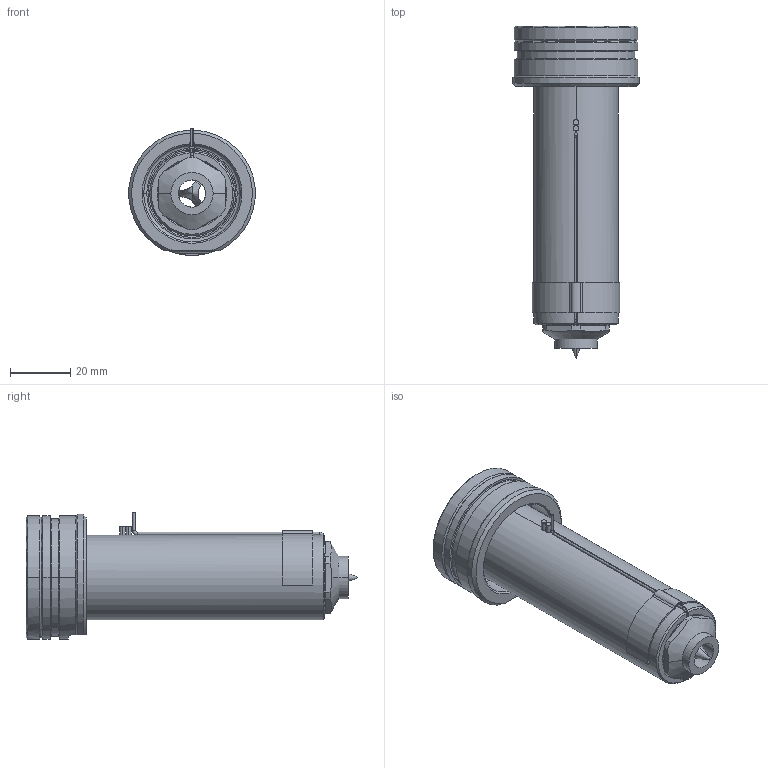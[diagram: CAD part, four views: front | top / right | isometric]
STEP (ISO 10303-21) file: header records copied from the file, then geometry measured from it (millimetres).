
FILE_DESCRIPTION((''),'2;1');
FILE_NAME('EO10_PG-BL_WR_090_SW','2024-02-19T11:10:04',('sundharh'),(''),'CREO PARAMETRIC BY PTC INC, 2023154','CREO PARAMETRIC BY PTC INC, 2023154','');
FILE_SCHEMA(('CONFIG_CONTROL_DESIGN'));
Length unit declared in the file: millimetre
Products named in the file (1): EO10_PG-BL_WR_090_SW
Bounding box: 41.85 x 110 x 42.02 mm (x, y, z)
Volume: 67231.8 mm3; surface area: 20003.3 mm2
Topology: 1 solids, 1 shells, 196 faces, 532 edges, 332 vertices
Faces by surface type: cylinder 78, plane 59, cone 37, torus 17, bspline 3, sphere 2
Entity records: 7231 total; most frequent: CARTESIAN_POINT 2172, DIRECTION 1102, ORIENTED_EDGE 1060, EDGE_CURVE 530, AXIS2_PLACEMENT_3D 459, VERTEX_POINT 332, CIRCLE 266, EDGE_LOOP 212
